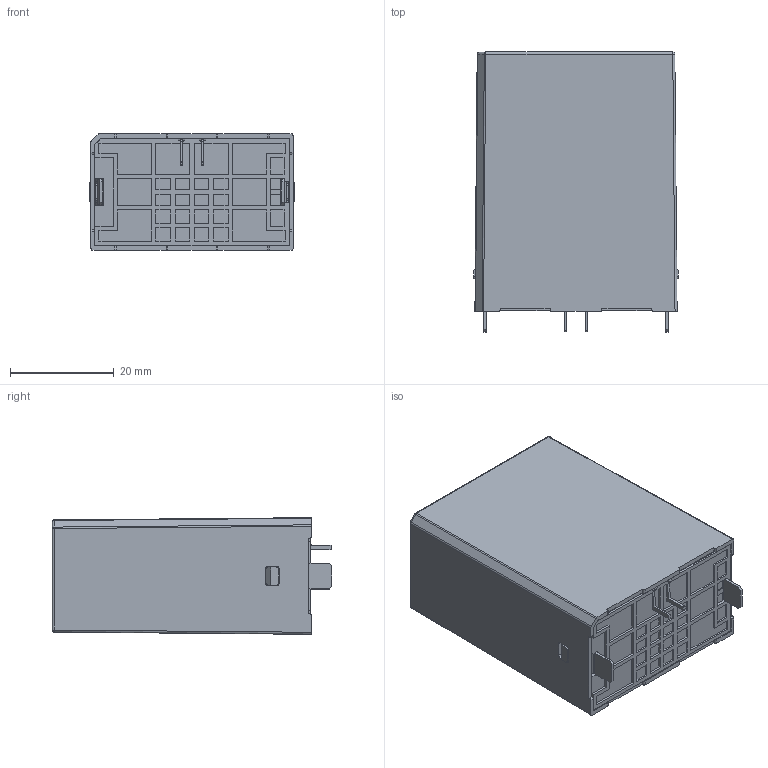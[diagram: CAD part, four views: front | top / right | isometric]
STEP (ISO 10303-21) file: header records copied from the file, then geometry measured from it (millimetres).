
FILE_DESCRIPTION(/* description */ ('Unknown'),/* implementation_level */ '2;1');
FILE_NAME(/* name */ 'TFMOV25M',/* time_stamp */ '2023-01-30T10:34:33+08:00',/* author */ ('Unknown'),/* organization */ ('Unknown'),/* preprocessor_version */ 'ST-DEVELOPER v16.7',/* originating_system */ 'Solid Edge',/* authorisation */ 'Unknown');
FILE_SCHEMA (('AUTOMOTIVE_DESIGN {1 0 10303 214 3 1 1}'));
Length unit declared in the file: millimetre
Products named in the file (10): ASM1000000034; PRT1000000168; ASM1000000514_oa_0; PRT1000000172; ASM1000000513_oa_1; PRT1000000164; ASM1000000515_oa_2; PRT1000000173; ASM1000000599; PRT1000000174
Assembly tree (11 placements, depth 4):
  ASM1000000034
    PRT1000000168
    ASM1000000514_oa_0
      PRT1000000172  x2
      ASM1000000513_oa_1
        PRT1000000164
      ASM1000000515_oa_2
        PRT1000000164
        PRT1000000173
    ASM1000000599
      PRT1000000174
Bounding box: 39.4 x 54 x 22.51 mm (x, y, z)
Volume: 11291.3 mm3; surface area: 24856.9 mm2
Topology: 7 solids, 7 shells, 1299 faces, 3455 edges, 2254 vertices
Faces by surface type: plane 840, cylinder 270, bspline 121, torus 44, cone 19, sphere 5
Full cylindrical faces by diameter (mm): 1 x1, 1.45 x1, 1.5 x4, 2 x1
Entity records: 41309 total; most frequent: CARTESIAN_POINT 12937, ORIENTED_EDGE 6214, DIRECTION 5201, EDGE_CURVE 3107, LINE 2043, VECTOR 2043, VERTEX_POINT 2036, AXIS2_PLACEMENT_3D 1579
